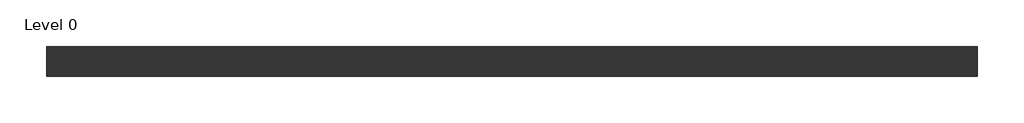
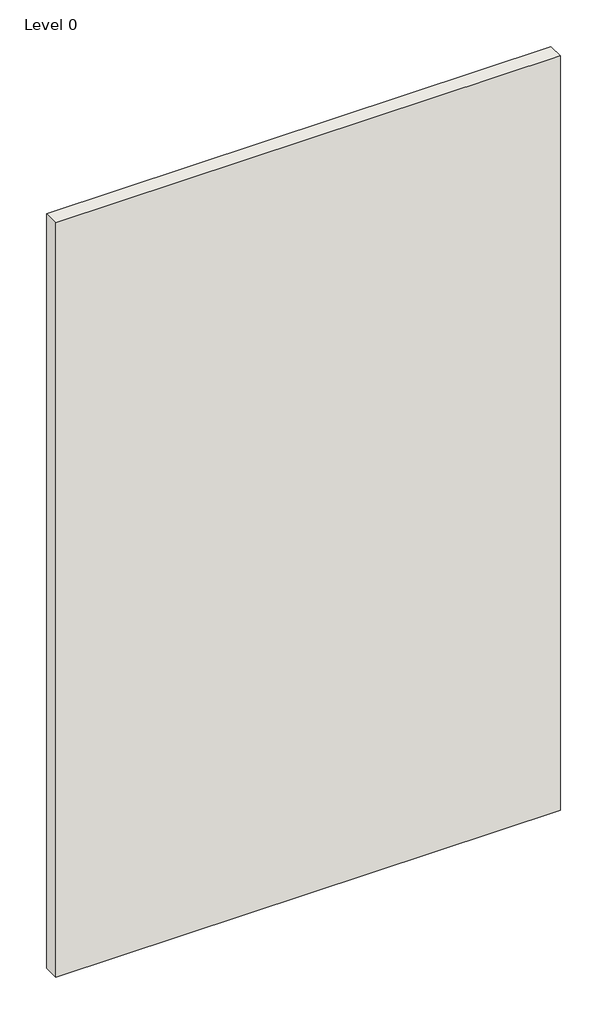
# One storey: 1 wall.
"""IFC4 building model written with IfcOpenShell, lengths in millimetres."""

import ifcopenshell
import ifcopenshell.guid

model = None  # the IFC model being written
_history = None  # IfcOwnerHistory: only IFC2X3 demands one
_inside = {}  # id of a spatial element -> (the spatial element, [elements in it])
_under = {}  # id of a project, library or spatial element -> (it, [spatial elements below it])
_declared = {}  # id of a project -> (the project, [libraries it declares])
_typed = {}  # id of a type object -> (the type object, [elements of that type])
_made_of = {}  # id of a material, layer set ... -> (it, [elements and type objects made of it])


def new_model(schema):
    """Start an empty IFC model of exactly this schema.

    Asked for "IFC4X3", IfcOpenShell would pick the latest addendum, in which some entities
    have other attributes; the version numbers below select the first issue.
    IFC2X3 requires an IfcOwnerHistory on every rooted entity: one is made here for all.
    """
    global model, _history
    if schema == "IFC4X3":
        model = ifcopenshell.file(schema_version=(4, 3, 0, 0))
    else:
        model = ifcopenshell.file(schema=schema)
    _inside.clear()
    _under.clear()
    _declared.clear()
    _typed.clear()
    _made_of.clear()
    _history = None
    if model.schema == "IFC2X3":
        org = make("IfcOrganization", Name="unknown")
        user = make(
            "IfcPersonAndOrganization",
            ThePerson=make("IfcPerson", FamilyName="unknown"),
            TheOrganization=org,
        )
        app = make(
            "IfcApplication",
            ApplicationDeveloper=org,
            Version="unknown",
            ApplicationFullName="unknown",
            ApplicationIdentifier="unknown",
        )
        _history = make(
            "IfcOwnerHistory",
            OwningUser=user,
            OwningApplication=app,
            ChangeAction="ADDED",
            CreationDate=0,
        )
    return model


def make(cls, **values):
    """One entity of the class cls with the attributes given. An attribute that is None is left unset."""
    return model.create_entity(
        cls, **{name: value for name, value in values.items() if value is not None}
    )


def rooted(cls, **values):
    """An entity with a GlobalId (a new one), such as an element, a storey or a relation."""
    return make(cls, GlobalId=ifcopenshell.guid.new(), OwnerHistory=_history, **values)


def si_unit(unit_type, name, prefix=None):
    """IfcSIUnit, for example si_unit("LENGTHUNIT", "METRE", prefix="MILLI")."""
    return make("IfcSIUnit", UnitType=unit_type, Prefix=prefix, Name=name)


def assignment(units):
    """IfcUnitAssignment: the units of a project."""
    return None if units is None else make("IfcUnitAssignment", Units=units)


def point(xyz):
    """IfcCartesianPoint."""
    return None if xyz is None else make("IfcCartesianPoint", Coordinates=xyz)


def direction(xyz):
    """IfcDirection."""
    return None if xyz is None else make("IfcDirection", DirectionRatios=xyz)


def frame(location, z_axis=None, x_axis=None):
    """IfcAxis2Placement3D, a coordinate frame: its origin and axes. An axis left out is left unset."""
    return make(
        "IfcAxis2Placement3D",
        Location=point(location),
        Axis=direction(z_axis),
        RefDirection=direction(x_axis),
    )


def origin():
    """The frame at (0, 0, 0) with its axes left unset."""
    return frame((0.0, 0.0, 0.0))


def origin_with_axes():
    """The frame at (0, 0, 0) with the z axis (0, 0, 1) and the x axis (1, 0, 0) written out."""
    return frame((0.0, 0.0, 0.0), z_axis=(0.0, 0.0, 1.0), x_axis=(1.0, 0.0, 0.0))


def place(relative_to, where):
    """IfcLocalPlacement: puts the frame where relative to a parent placement (None: the world)."""
    return make(
        "IfcLocalPlacement", PlacementRelTo=relative_to, RelativePlacement=where
    )


def context(
    kind, dimensions, precision=None, world=None, true_north=None, identifier=None
):
    """IfcGeometricRepresentationContext, for example the 3D "Model" context."""
    return make(
        "IfcGeometricRepresentationContext",
        ContextIdentifier=identifier,
        ContextType=kind,
        CoordinateSpaceDimension=dimensions,
        Precision=precision,
        WorldCoordinateSystem=world,
        TrueNorth=true_north,
    )


def project(units=None, contexts=None):
    """IfcProject with its units and contexts."""
    return rooted(
        "IfcProject",
        Name="project",
        RepresentationContexts=contexts,
        UnitsInContext=assignment(units),
    )


def spatial(cls, under=None, at=None, **own):
    """A site, building, storey or space (cls), placed at a placement, below another one or the project."""
    s = rooted(cls, ObjectPlacement=at, **own)
    if under is not None:
        _under.setdefault(under.id(), (under, []))[1].append(s)
    return s


def polyline(points):
    """IfcPolyline through the points."""
    return make("IfcPolyline", Points=[point(p) for p in points])


def outline(outer, holes=None, kind="AREA"):
    """IfcArbitraryClosedProfileDef: a profile drawn as a closed curve; with holes, ...WithVoids."""
    if holes is None:
        return make("IfcArbitraryClosedProfileDef", ProfileType=kind, OuterCurve=outer)
    return make(
        "IfcArbitraryProfileDefWithVoids",
        ProfileType=kind,
        OuterCurve=outer,
        InnerCurves=holes,
    )


def extrude(swept, where, along, depth):
    """IfcExtrudedAreaSolid: the profile swept, set in the frame where, extruded along a direction by depth."""
    return make(
        "IfcExtrudedAreaSolid",
        SweptArea=swept,
        Position=where,
        ExtrudedDirection=direction(along),
        Depth=depth,
    )


def shape(context_of_items, identifier, shape_type, items):
    """IfcShapeRepresentation: the items that make up one representation, for example the "Body"."""
    return make(
        "IfcShapeRepresentation",
        ContextOfItems=context_of_items,
        RepresentationIdentifier=identifier,
        RepresentationType=shape_type,
        Items=items,
    )


def made_of(thing, what):
    """Note that an element or type object is made of a material, layer set ...; save() writes the relation."""
    if what is not None:
        _made_of.setdefault(what.id(), (what, []))[1].append(thing)
    return thing


def element(
    cls,
    number,
    at=None,
    inside=None,
    cuts=None,
    type_object=None,
    material=None,
    context=None,
    identifier="Body",
    shape_type=None,
    held_by="IfcProductDefinitionShape",
    body=None,
    shapes=None,
    **own,
):
    """One element of the class cls, such as IfcWall. Its Tag is "e" and its number.

    at: its placement. inside: the storey or other place that contains it. cuts: it is an
    opening in that element (IfcRelVoidsElement). A single representation is given by context,
    identifier, shape_type and body (its items); several are given by shapes. held_by: the class
    of the entity that holds the representations. save() writes the other relations.
    """
    e = rooted(cls, Tag="e%d" % number, ObjectPlacement=at, **own)
    if body is not None:
        shapes = [shape(context, identifier, shape_type, body)]
    if shapes is not None:
        e.Representation = make(held_by, Representations=shapes)
    if inside is not None:
        _inside.setdefault(inside.id(), (inside, []))[1].append(e)
    if cuts is not None:
        rooted(
            "IfcRelVoidsElement", RelatingBuildingElement=cuts, RelatedOpeningElement=e
        )
    if type_object is not None:
        _typed.setdefault(type_object.id(), (type_object, []))[1].append(e)
    return made_of(e, material)


def aggregate(whole, parts):
    """IfcRelAggregates: a whole, such as a stair, and the parts it consists of."""
    return rooted("IfcRelAggregates", RelatingObject=whole, RelatedObjects=parts)


def save(model, path):
    """Write the relations noted so far, then the file.

    IfcRelAggregates (storeys below a building ...), IfcRelContainedInSpatialStructure (elements
    in a storey), IfcRelDefinesByType, IfcRelAssociatesMaterial and IfcRelDeclares: one each for
    every whole, place, type object, material and project.
    """
    for whole, parts in _under.values():
        aggregate(whole, parts)
    for where, things in _inside.values():
        rooted(
            "IfcRelContainedInSpatialStructure",
            RelatedElements=things,
            RelatingStructure=where,
        )
    for kind, things in _typed.values():
        rooted("IfcRelDefinesByType", RelatedObjects=things, RelatingType=kind)
    for what, things in _made_of.values():
        rooted("IfcRelAssociatesMaterial", RelatedObjects=things, RelatingMaterial=what)
    for by, libraries in _declared.values():
        rooted("IfcRelDeclares", RelatingContext=by, RelatedDefinitions=libraries)
    model.write(path)


model = new_model("IFC4")

# Units and contexts
model_context = context("Model", 3, world=origin())
ifc_project = project(units=[si_unit("LENGTHUNIT", "METRE", prefix="MILLI")], contexts=[model_context])

# Site, building, storey
site = spatial("IfcSite", under=ifc_project)
building = spatial("IfcBuilding", under=site)
storey = spatial("IfcBuildingStorey", under=building, Name="Level 0", Elevation=0.0)

# Wall
placement = place(None, origin())
element("IfcWall", 1, ObjectType="Q606015 - GypWall Robust", at=placement, inside=storey, context=model_context, shape_type="SweptSolid", body=[
    extrude(outline(polyline([(1155.997948, 505.7669953), (-1944.002052, 505.7669953), (-1944.002052, 604.7669953), (1155.997948, 604.7669953), (1155.997948, 505.7669953)])), origin_with_axes(), (0.0, 0.0, 1.0), 4900.0),
])

save(model, "model.ifc")
